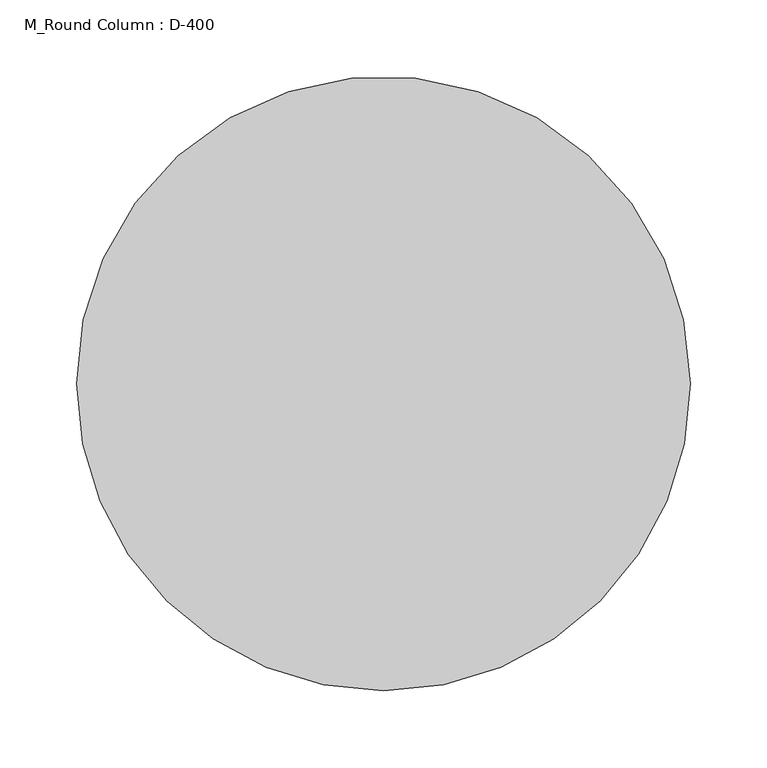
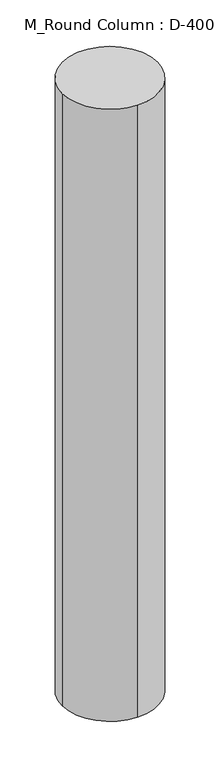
"""IFC4 building model written with IfcOpenShell, lengths in millimetres: column geometry, M_Round Column : D-400."""

from ifc_helpers import new_model, si_unit, point, frame, origin, origin_2d, place, context, project, spatial, circle_curve, trimmed, segment, composite_curve, outline, extrude, source, transform, mapped, element, save


def m_round_column_d_400_5789d155(model_context):
    return source(origin(), model_context, "Body", "SweptSolid", [
        extrude(outline(composite_curve([segment(trimmed(circle_curve(origin_2d(), 200.0), [point((200.0, 0.0))], [point((0.0, -200.0))], False, "CARTESIAN"), True, "CONTINUOUS"), segment(trimmed(circle_curve(origin_2d(), 200.0), [point((0.0, -200.0))], [point((-200.0, 0.0))], False, "CARTESIAN"), True, "CONTINUOUS"), segment(trimmed(circle_curve(origin_2d(), 200.0), [point((-200.0, 0.0))], [point((200.0, 0.0))], False, "CARTESIAN"), True, "CONTINUOUS")], self_intersect=False)), frame((0.0, 0.0, 10640.0), z_axis=(0.0, 0.0, 1.0), x_axis=(1.0, 0.0, 0.0)), (0.0, 0.0, 1.0), 2720.0),
    ])


if __name__ == "__main__":
    model = new_model("IFC4")
    model_context = context("Model", 3, world=origin())
    ifc_project = project(units=[si_unit("LENGTHUNIT", "METRE", prefix="MILLI")], contexts=[model_context])
    site = spatial("IfcSite", under=ifc_project)
    building = spatial("IfcBuilding", under=site)
    placement = place(None, origin())
    m_round_column_d_400_shape = m_round_column_d_400_5789d155(model_context)
    element("IfcColumn", 1, ObjectType="M_Round Column : D-400", at=placement, inside=building, context=model_context, shape_type="MappedRepresentation", body=[
        mapped(m_round_column_d_400_shape, transform((0.0, 0.0, 0.0), x_axis=(1.0, 0.0, 0.0), y_axis=(0.0, 1.0, 0.0), z_axis=(0.0, 0.0, 1.0))),
    ])
    save(model, "model.ifc")
